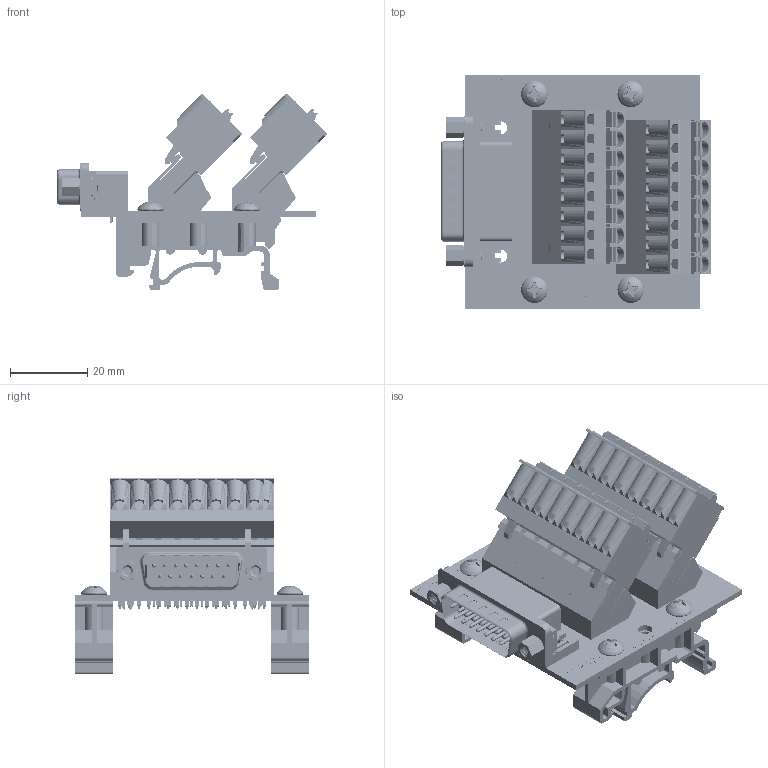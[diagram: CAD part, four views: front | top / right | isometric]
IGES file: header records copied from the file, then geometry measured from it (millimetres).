
Start section: SolidWorks IGES file using analytic representation for surfaces
Global section: file name: D:\Documents\Winford Engineering Jobs\BRKLD15\BRKLD15M\brkld15m-rg-din_rev_a.igs; native system: SolidWorks 2017; preprocessor: SolidWorks 2017; author: mudhf; date: 210208.224844; units: inch
Bounding box: 70.02 x 60.96 x 51.02 mm (x, y, z)
Surface area: 42391.5 mm2 (no closed solid volume)
Topology: 0 solids, 0 shells, 7572 faces, 66046 edges, 65956 vertices
Faces by surface type: bspline 5504, revolution 2068
